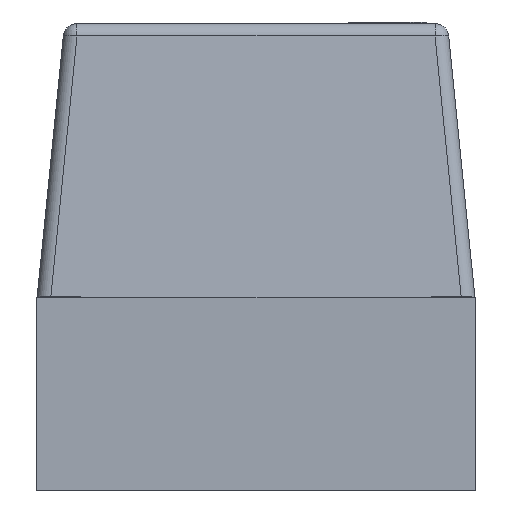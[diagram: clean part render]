
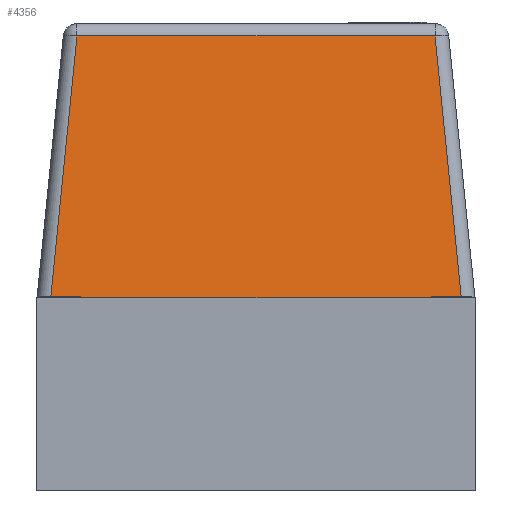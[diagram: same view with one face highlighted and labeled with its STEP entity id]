
A CAD part, left-side view. The second image highlights one B-rep face of the part: STEP entity #4356.
In plain terms, the highlighted planar face has unit normal (-0.995, 0, 0.1).
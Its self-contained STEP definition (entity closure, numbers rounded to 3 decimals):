
#348=FACE_OUTER_BOUND('',#597,.T.);
#597=EDGE_LOOP('',(#3280,#3281,#3282,#3283));
#951=LINE('',#6322,#1462);
#957=LINE('',#6348,#1468);
#960=LINE('',#6355,#1471);
#967=LINE('',#6370,#1478);
#1462=VECTOR('',#5292,10.);
#1468=VECTOR('',#5322,10.);
#1471=VECTOR('',#5329,10.);
#1478=VECTOR('',#5348,10.);
#1919=VERTEX_POINT('',#6310);
#1922=VERTEX_POINT('',#6320);
#1930=VERTEX_POINT('',#6344);
#1931=VERTEX_POINT('',#6351);
#2402=EDGE_CURVE('',#1922,#1919,#951,.T.);
#2415=EDGE_CURVE('',#1919,#1930,#957,.T.);
#2419=EDGE_CURVE('',#1930,#1931,#960,.T.);
#2427=EDGE_CURVE('',#1922,#1931,#967,.T.);
#3280=ORIENTED_EDGE('',*,*,#2402,.F.);
#3281=ORIENTED_EDGE('',*,*,#2427,.T.);
#3282=ORIENTED_EDGE('',*,*,#2419,.F.);
#3283=ORIENTED_EDGE('',*,*,#2415,.F.);
#4153=PLANE('',#4797);
#4356=ADVANCED_FACE('',(#348),#4153,.T.);
#4797=AXIS2_PLACEMENT_3D('',#6374,#5354,#5355);
#5292=DIRECTION('',(0.099,-0.099,0.99));
#5322=DIRECTION('',(0.,-1.,0.));
#5329=DIRECTION('',(-0.099,-0.099,-0.99));
#5348=DIRECTION('',(0.,-1.,0.));
#5354=DIRECTION('center_axis',(-0.995,0.,0.1));
#5355=DIRECTION('ref_axis',(0.1,0.,0.995));
#6310=CARTESIAN_POINT('',(0.248,0.326,0.477));
#6320=CARTESIAN_POINT('',(0.2,0.374,0.));
#6322=CARTESIAN_POINT('',(0.23,0.344,0.299));
#6344=CARTESIAN_POINT('',(0.248,-0.326,0.477));
#6348=CARTESIAN_POINT('',(0.248,0.1,0.477));
#6351=CARTESIAN_POINT('',(0.2,-0.374,0.));
#6355=CARTESIAN_POINT('',(0.229,-0.345,0.289));
#6370=CARTESIAN_POINT('',(0.2,0.4,0.));
#6374=CARTESIAN_POINT('Origin',(0.225,0.2,0.25));
